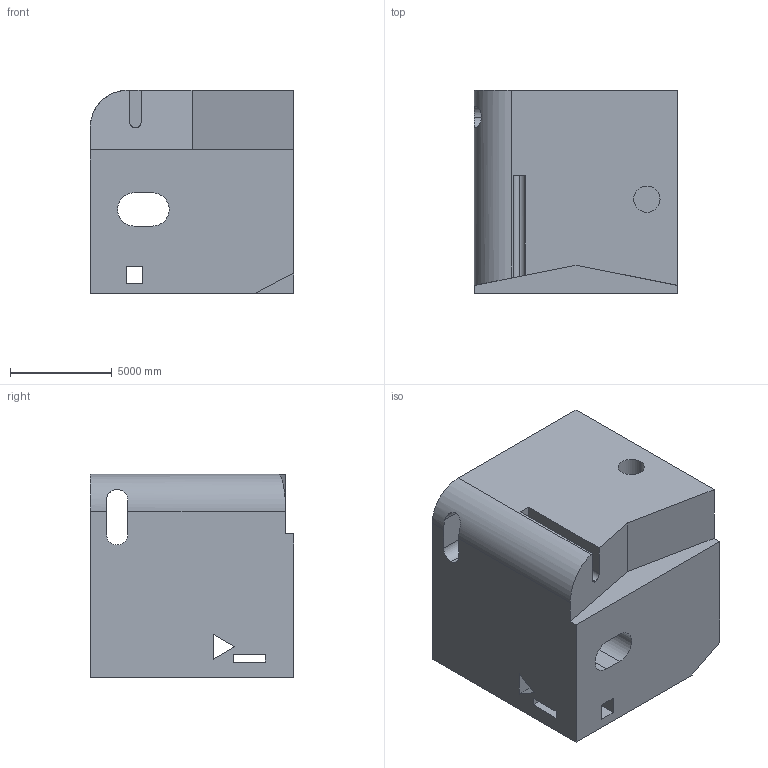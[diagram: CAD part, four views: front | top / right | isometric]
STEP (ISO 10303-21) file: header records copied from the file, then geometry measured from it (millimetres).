
FILE_DESCRIPTION (( 'STEP AP203' ), '1' );
FILE_NAME ('190.STEP', '2022-09-06T14:42:45', ( 'user' ), ( '' ), 'SwSTEP 2.0', 'SolidWorks 2021', '' );
FILE_SCHEMA (( 'CONFIG_CONTROL_DESIGN' ));
Length unit declared in the file: centimetre
Products named in the file (1): 190
Bounding box: 10000 x 10000 x 10000 mm (x, y, z)
Volume: 872045599862.1 mm3; surface area: 825176455.5 mm2
Topology: 1 solids, 1 shells, 45 faces, 141 edges, 94 vertices
Faces by surface type: plane 35, cylinder 10
Entity records: 1767 total; most frequent: CARTESIAN_POINT 401, ORIENTED_EDGE 282, DIRECTION 247, EDGE_CURVE 141, VECTOR 119, LINE 119, VERTEX_POINT 94, AXIS2_PLACEMENT_3D 64
